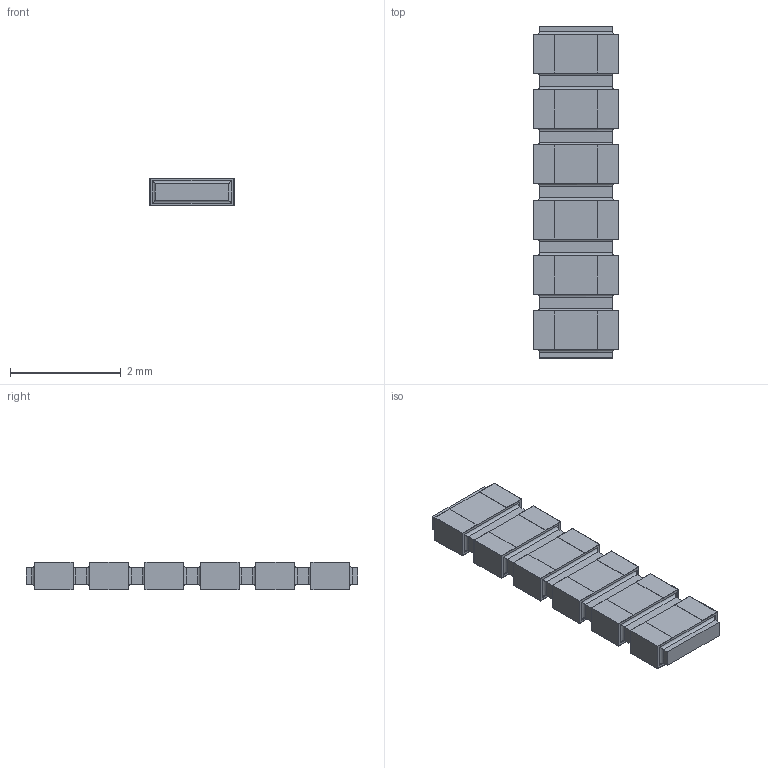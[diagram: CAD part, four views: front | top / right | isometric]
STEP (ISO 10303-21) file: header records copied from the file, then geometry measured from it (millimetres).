
FILE_DESCRIPTION(/* description */ (''),/* implementation_level */ '2;1');
FILE_NAME(/* name */ 'S:\DOCUMENT\AUTOCAD\3D_Modèles\10_3D-pour-VISHAY-COM\PRA\PRA100\PRA100-I2_à_I8\20_STEP\PRA100I6_B-or-N-or-G.stp',/* time_stamp */ '2017-12-18T09:16:40+01:00',/* author */ ('dparmentier'),/* organization */ ('unknown'),/* preprocessor_version */ 'ST-DEVELOPER v17',/* originating_system */ 'Autodesk Inventor 2018',/* authorisation */ '');
FILE_SCHEMA (('AUTOMOTIVE_DESIGN { 1 0 10303 214 3 1 1 }'));
Length unit declared in the file: millimetre
Products named in the file (1): PRA100I6_B-or-N-or-G
Bounding box: 1.52 x 6 x 0.5 mm (x, y, z)
Volume: 3.9 mm3; surface area: 48 mm2
Topology: 13 solids, 13 shells, 234 faces, 540 edges, 344 vertices
Faces by surface type: plane 186, cylinder 48
Entity records: 6509 total; most frequent: CARTESIAN_POINT 1119, ORIENTED_EDGE 1080, DIRECTION 1058, EDGE_CURVE 540, LINE 492, VECTOR 492, VERTEX_POINT 344, AXIS2_PLACEMENT_3D 283
